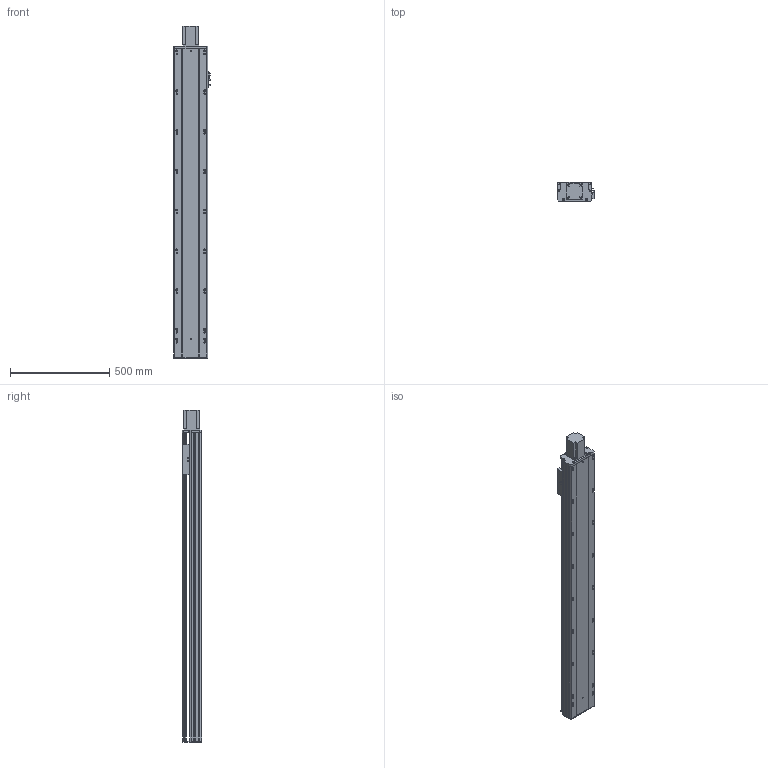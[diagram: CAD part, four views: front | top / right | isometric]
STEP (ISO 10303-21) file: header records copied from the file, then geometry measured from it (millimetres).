
FILE_DESCRIPTION (( 'STEP AP203' ), '1' );
FILE_NAME ('Y170-D10-S1300-BD-P750W.STEP', '2020-01-22T07:13:02', ( '微软用户' ), ( '微软中国' ), 'SwSTEP 2.0', 'SolidWorks 2017', '' );
FILE_SCHEMA (( 'CONFIG_CONTROL_DESIGN' ));
Length unit declared in the file: millimetre
Products named in the file (10): Y170-D10-S1300-BD-P750W; Y100-135俋离換覜ん; 170--掛极-BD; Y170-萇儂楊擘啣--; 135-盓傅釱-FK15; 侂狟750W; Y170耜裔--準---; Y170-陔遴奻裔-BD; Y170--雄赽釱-梓--; YD-Y100-135-新外置传感挡片(通用）
Assembly tree (11 placements, depth 2):
  Y170-D10-S1300-BD-P750W
    YD-Y100-135-新外置传感挡片(通用）
    Y100-135俋离換覜ん  x3
    170--掛极-BD
    Y170-萇儂楊擘啣--
    135-盓傅釱-FK15
    侂狟750W
    Y170耜裔--準---
    Y170-陔遴奻裔-BD
    Y170--雄赽釱-梓--
Bounding box: 183.5 x 97 x 1668.5 mm (x, y, z)
Volume: 6963532.9 mm3; surface area: 2392593.6 mm2
Topology: 11 solids, 11 shells, 852 faces, 2451 edges, 1624 vertices
Faces by surface type: cylinder 462, plane 388, torus 2
Entity records: 28111 total; most frequent: CARTESIAN_POINT 5147, DIRECTION 4665, ORIENTED_EDGE 4566, EDGE_CURVE 2283, AXIS2_PLACEMENT_3D 1686, VERTEX_POINT 1512, VECTOR 1293, LINE 1293
